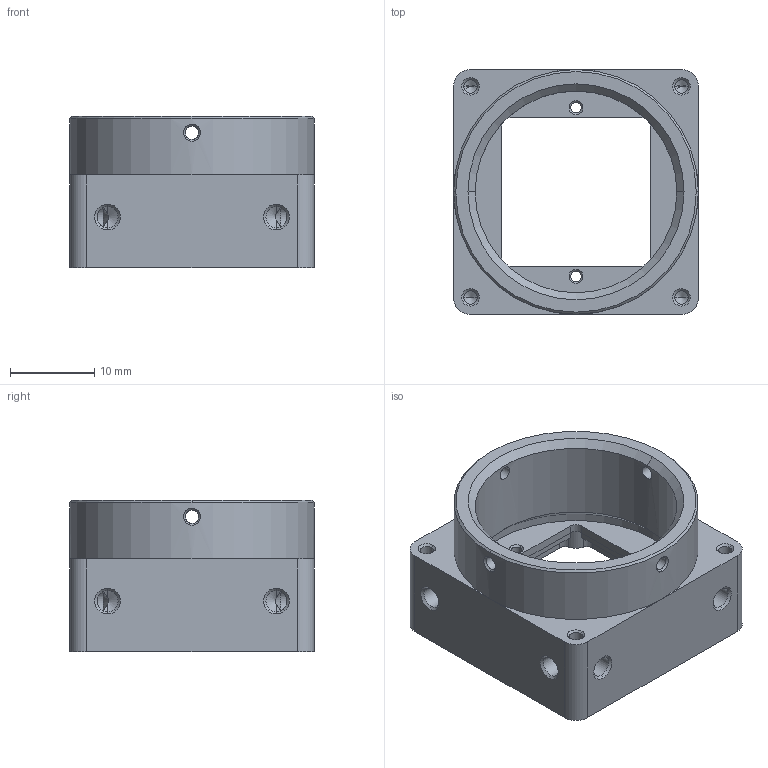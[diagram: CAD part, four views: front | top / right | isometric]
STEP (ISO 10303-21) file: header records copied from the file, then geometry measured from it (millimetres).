
FILE_DESCRIPTION(('FreeCAD Model'),'2;1');
FILE_NAME('Open CASCADE Shape Model','2024-10-08T17:40:38',(''),(''), 'Open CASCADE STEP processor 7.6','FreeCAD','Unknown');
FILE_SCHEMA(('AUTOMOTIVE_DESIGN { 1 0 10303 214 1 1 1 1 }'));
Length unit declared in the file: millimetre
Products named in the file (1): Boolean
Bounding box: 29 x 29 x 17.95 mm (x, y, z)
Volume: 4957.9 mm3; surface area: 4832.3 mm2
Topology: 1 solids, 1 shells, 164 faces, 427 edges, 258 vertices
Faces by surface type: cone 90, cylinder 49, plane 25
Full cylindrical faces by diameter (mm): 1.25 x2, 1.6 x12, 2.5 x8, 23.9 x1, 25.7 x1, 29 x1
Entity records: 5223 total; most frequent: CARTESIAN_POINT 1189, DIRECTION 876, ORIENTED_EDGE 822, EDGE_CURVE 411, AXIS2_PLACEMENT_3D 359, VERTEX_POINT 258, FACE_BOUND 195, EDGE_LOOP 195
